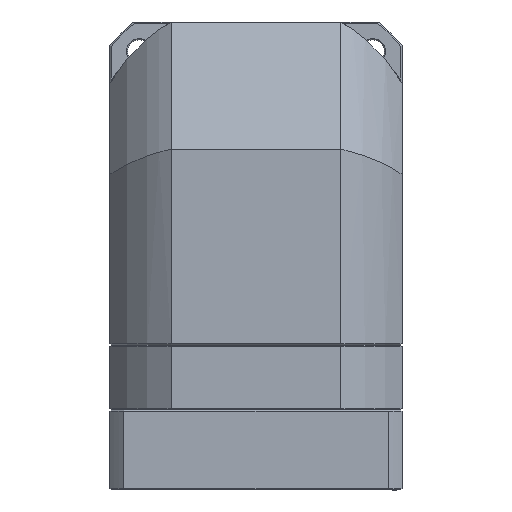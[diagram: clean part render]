
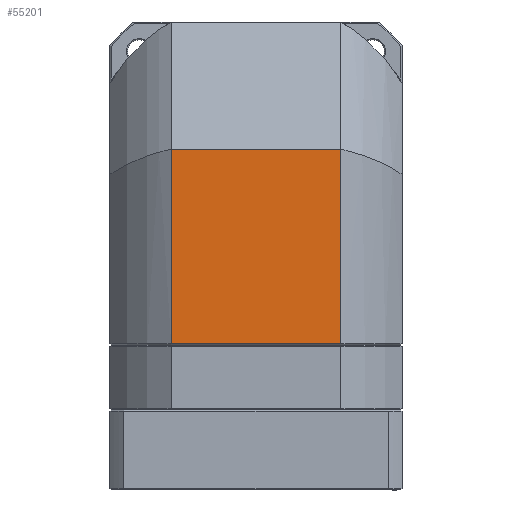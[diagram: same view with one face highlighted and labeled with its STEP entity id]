
A CAD part, front view. The second image highlights one B-rep face of the part: STEP entity #55201.
In plain terms, the highlighted planar face has unit normal (0, 1, 0).
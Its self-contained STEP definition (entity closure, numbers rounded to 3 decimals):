
#1740 = ORIENTED_EDGE ( 'NONE', *, *, #87116, .F. ) ;
#4913 = ORIENTED_EDGE ( 'NONE', *, *, #59714, .T. ) ;
#4927 = VECTOR ( 'NONE', #75741, 1000. ) ;
#6401 = VECTOR ( 'NONE', #40615, 1000. ) ;
#12728 = CARTESIAN_POINT ( 'NONE',  ( 33.407, -261.111, -30.62 ) ) ;
#14147 = CARTESIAN_POINT ( 'NONE',  ( -33.407, -261.111, -30.85 ) ) ;
#16071 = VERTEX_POINT ( 'NONE', #70294 ) ;
#24761 = CARTESIAN_POINT ( 'NONE',  ( 0., -261.111, 7.5 ) ) ;
#25010 = LINE ( 'NONE', #12728, #6401 ) ;
#26076 = AXIS2_PLACEMENT_3D ( 'NONE', #69172, #27080, #76123 ) ;
#27080 = DIRECTION ( 'NONE',  ( 0., -1., 0. ) ) ;
#29533 = CARTESIAN_POINT ( 'NONE',  ( 33.407, -261.111, 7.5 ) ) ;
#30019 = VECTOR ( 'NONE', #73863, 1000. ) ;
#33753 = CARTESIAN_POINT ( 'NONE',  ( 0., -261.111, -69.2 ) ) ;
#36890 = VERTEX_POINT ( 'NONE', #87503 ) ;
#37620 = EDGE_LOOP ( 'NONE', ( #64986, #1740, #49056, #4913 ) ) ;
#39213 = EDGE_CURVE ( 'NONE', #82064, #16071, #65385, .T. ) ;
#40526 = VERTEX_POINT ( 'NONE', #29533 ) ;
#40615 = DIRECTION ( 'NONE',  ( 0., 0., -1. ) ) ;
#49056 = ORIENTED_EDGE ( 'NONE', *, *, #39213, .F. ) ;
#52053 = EDGE_CURVE ( 'NONE', #40526, #36890, #25010, .T. ) ;
#55201 = ADVANCED_FACE ( 'NONE', ( #75963 ), #75834, .F. ) ;
#56154 = DIRECTION ( 'NONE',  ( 0., 0., -1. ) ) ;
#59714 = EDGE_CURVE ( 'NONE', #82064, #40526, #83713, .T. ) ;
#64986 = ORIENTED_EDGE ( 'NONE', *, *, #52053, .T. ) ;
#65385 = LINE ( 'NONE', #14147, #83940 ) ;
#69172 = CARTESIAN_POINT ( 'NONE',  ( -33.407, -261.111, -69.2 ) ) ;
#70294 = CARTESIAN_POINT ( 'NONE',  ( -33.407, -261.111, -69.2 ) ) ;
#73863 = DIRECTION ( 'NONE',  ( 1., 0., 0. ) ) ;
#75741 = DIRECTION ( 'NONE',  ( 1., 0., 0. ) ) ;
#75834 = PLANE ( 'NONE',  #26076 ) ;
#75963 = FACE_OUTER_BOUND ( 'NONE', #37620, .T. ) ;
#76123 = DIRECTION ( 'NONE',  ( 1., 0., 0. ) ) ;
#77322 = LINE ( 'NONE', #33753, #4927 ) ;
#81521 = CARTESIAN_POINT ( 'NONE',  ( -33.407, -261.111, 7.5 ) ) ;
#82064 = VERTEX_POINT ( 'NONE', #81521 ) ;
#83713 = LINE ( 'NONE', #24761, #30019 ) ;
#83940 = VECTOR ( 'NONE', #56154, 1000. ) ;
#87116 = EDGE_CURVE ( 'NONE', #16071, #36890, #77322, .T. ) ;
#87503 = CARTESIAN_POINT ( 'NONE',  ( 33.407, -261.111, -69.2 ) ) ;
